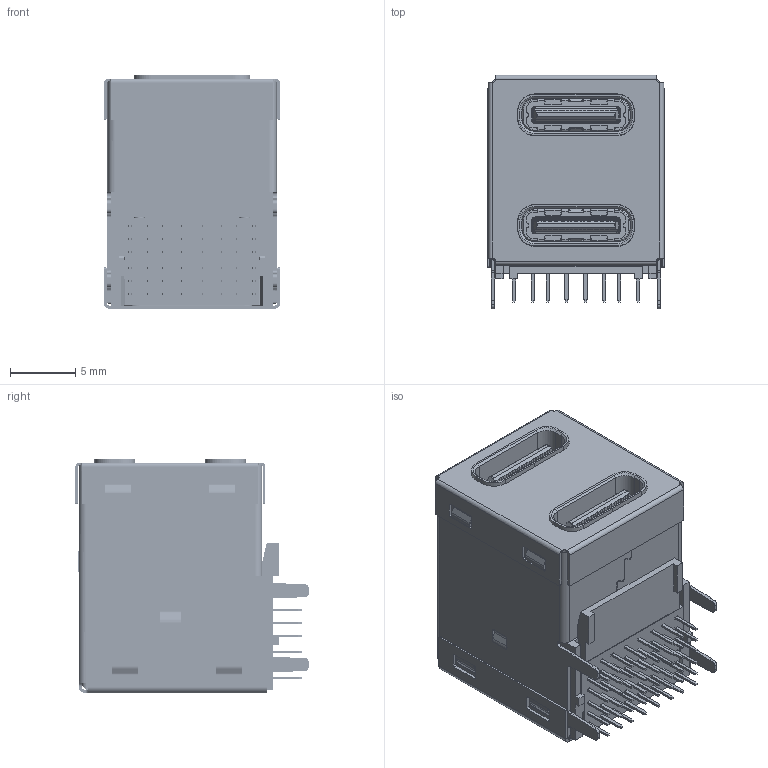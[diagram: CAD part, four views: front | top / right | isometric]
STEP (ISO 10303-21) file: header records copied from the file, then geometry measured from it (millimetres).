
FILE_DESCRIPTION (( 'STEP AP203' ), '1' );
FILE_NAME ('U5419-24P+24PN17.7L.STEP', '2026-09-22T06:29:20', ( '' ), ( '' ), 'SwSTEP 2.0', 'SolidWorks 2024', '' );
FILE_SCHEMA (( 'CONFIG_CONTROL_DESIGN' ));
Products named in the file (1): U5419-24P+24PN17.7L
Bounding box: 13.6 x 17.95 x 18 mm (x, y, z)
Surface area: 8008.2 mm2 (no closed solid volume)
Topology: 0 solids, 46 shells, 7358 faces, 19698 edges, 12452 vertices
Faces by surface type: plane 4917, cylinder 2175, cone 136, bspline 104, torus 26
Entity records: 233861 total; most frequent: CARTESIAN_POINT 49460, ORIENTED_EDGE 39384, DIRECTION 36808, EDGE_CURVE 19698, LINE 13770, VECTOR 13770, VERTEX_POINT 12452, AXIS2_PLACEMENT_3D 11519
